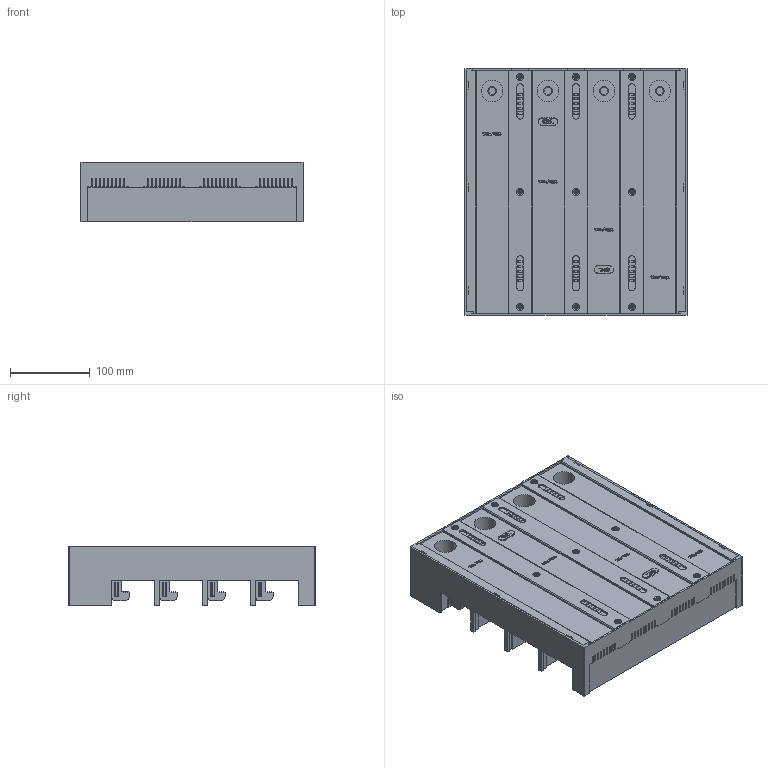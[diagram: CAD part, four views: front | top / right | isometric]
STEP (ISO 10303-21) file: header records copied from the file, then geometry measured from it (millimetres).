
FILE_DESCRIPTION (( 'STEP AP214' ), '1' );
FILE_NAME ('55233潠芞.ST', '2023-06-05T01:42:33', ( 'gll006' ), ( '' ), 'SwSTEP 2.0', 'SolidWorks 2019', '' );
FILE_SCHEMA (( 'AUTOMOTIVE_DESIGN' ));
Length unit declared in the file: millimetre
Products named in the file (1): 55233潠芞赤_“a_
Bounding box: 280 x 309.1 x 74.5 mm (x, y, z)
Volume: 3612874.8 mm3; surface area: 450386.3 mm2
Topology: 1 solids, 1 shells, 3342 faces, 9503 edges, 6277 vertices
Faces by surface type: plane 2509, cylinder 630, bspline 170, cone 16, sphere 9, torus 8
Entity records: 120879 total; most frequent: CARTESIAN_POINT 28065, ORIENTED_EDGE 19006, DIRECTION 16873, EDGE_CURVE 9503, VECTOR 7771, LINE 7771, VERTEX_POINT 6277, AXIS2_PLACEMENT_3D 4551
